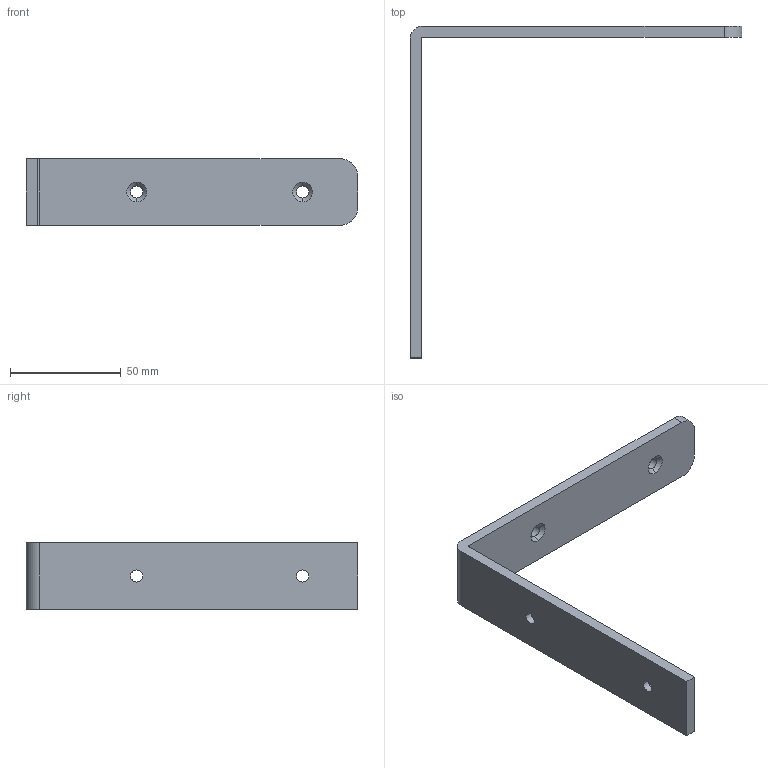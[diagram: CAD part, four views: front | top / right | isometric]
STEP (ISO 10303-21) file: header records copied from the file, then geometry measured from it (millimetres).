
FILE_DESCRIPTION (( 'STEP AP214' ), '1' );
FILE_NAME ('G324-150.STEP', '2024-08-21T08:36:29', ( '' ), ( '' ), 'SwSTEP 2.0', 'SolidWorks 2023', '' );
FILE_SCHEMA (( 'AUTOMOTIVE_DESIGN' ));
Length unit declared in the file: millimetre
Products named in the file (1): G324-150
Bounding box: 150 x 150 x 30 mm (x, y, z)
Volume: 43283.9 mm3; surface area: 20856.2 mm2
Topology: 1 solids, 1 shells, 28 faces, 78 edges, 52 vertices
Faces by surface type: cylinder 12, cone 8, plane 8
Entity records: 961 total; most frequent: DIRECTION 176, CARTESIAN_POINT 159, ORIENTED_EDGE 156, EDGE_CURVE 78, AXIS2_PLACEMENT_3D 69, VERTEX_POINT 52, CIRCLE 40, VECTOR 38
